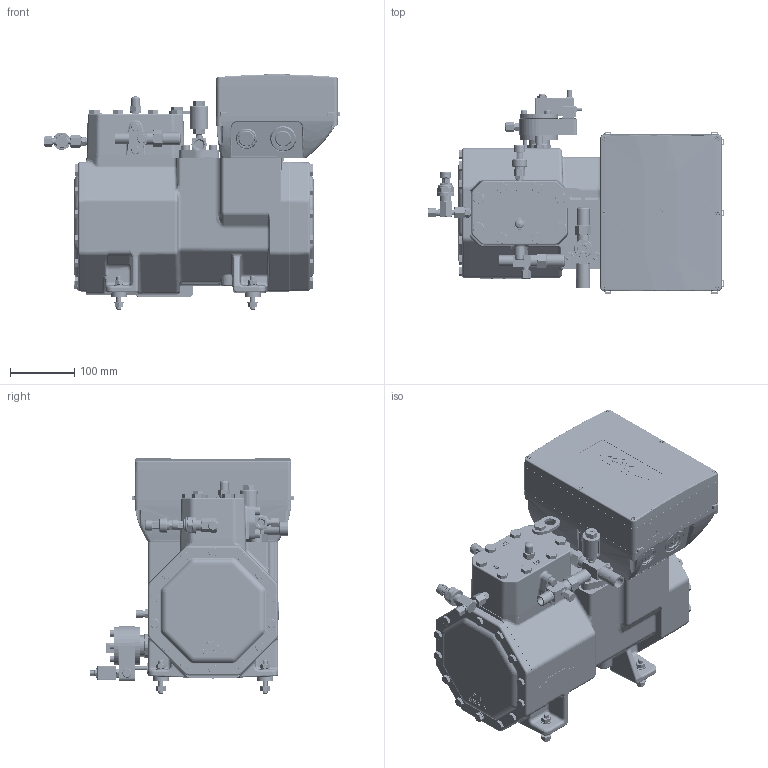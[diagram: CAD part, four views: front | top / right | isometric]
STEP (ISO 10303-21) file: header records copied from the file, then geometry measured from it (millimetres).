
FILE_DESCRIPTION(/* description */ (''),/* implementation_level */ '2;1');
FILE_NAME(/* name */ '2NSL-2MSL-2KSL-2JSL-2HSL-CPL_Arrangement 1.stp',/* time_stamp */ '2025-09-19T15:35:06+02:00',/* author */ (''),/* organization */ (''),/* preprocessor_version */ 'ST-DEVELOPER v20',/* originating_system */ 'SIEMENS PLM Software NX2406.8100',/* authorisation */ '');
FILE_SCHEMA (('AUTOMOTIVE_DESIGN { 1 0 10303 214 3 1 1 1 }'));
Products named in the file (24): PRESSURE-TRANSMITTER-43-LP; PT1000; DISCHARGE-SENSOR-HP; HOUSING-COVER-C1; HOUSING-COVER-CH1; CYLINDER-HEAD-HIGH-D30-D46; CRANKCASE-HEATER-200-260V-120W; TERMINAL-BOX-CE3-CM-RC-02; BLIND-FLANGE-HD35-CM; BLIND-FLANGE-HD42; OIL-LEVEL-MONITORING-OLM-IQ-2; CYLINDER-HEAD-HIGH-D30-D46-01; SHUT-OFF-VALVE-DI16-DA22-DN12; SHUT-OFF-VALVE-DI12-DA17-DN10; DAMPER-ELEMENT-COMPL-C1-03; TERMINAL-BOX-STANDARD-IP65; PROTECT-CAP-PRESS-REL-VALVE; BODY-2MSL-2FSL; APPLICATION-ENVENLOPE-MONITORI; 2NSL-2HSL-OPTION; 2NSL-2MSL-2KSL-2JSL-2HSL; 2GSL-2FSL; 2NSL-2HSL-STANDRAD; 2NSL-2MSL-2KSL-2JSL-2HSL-CPL
Assembly tree (26 placements, depth 4):
  2NSL-2MSL-2KSL-2JSL-2HSL-CPL
    2NSL-2HSL-STANDRAD
      BODY-2MSL-2FSL
      PROTECT-CAP-PRESS-REL-VALVE
      TERMINAL-BOX-STANDARD-IP65
      DAMPER-ELEMENT-COMPL-C1-03  x4
      SHUT-OFF-VALVE-DI12-DA17-DN10
      SHUT-OFF-VALVE-DI16-DA22-DN12
      CYLINDER-HEAD-HIGH-D30-D46-01
      2GSL-2FSL
        HOUSING-COVER-CH1
      2NSL-2MSL-2KSL-2JSL-2HSL
        HOUSING-COVER-C1
    2NSL-2HSL-OPTION
      OIL-LEVEL-MONITORING-OLM-IQ-2
      BLIND-FLANGE-HD42
      BLIND-FLANGE-HD35-CM
      TERMINAL-BOX-CE3-CM-RC-02
      CRANKCASE-HEATER-200-260V-120W
      CYLINDER-HEAD-HIGH-D30-D46
      APPLICATION-ENVENLOPE-MONITORI
        DISCHARGE-SENSOR-HP
        PT1000
        PRESSURE-TRANSMITTER-43-LP
Bounding box: 461.33 x 317.25 x 365.92 mm (x, y, z)
Volume: 22074898.7 mm3; surface area: 1059430.1 mm2
Topology: 21 solids, 29 shells, 6341 faces, 15465 edges, 9619 vertices
Faces by surface type: plane 2723, cylinder 1283, bspline 843, cone 817, torus 286, extrusion 269, sphere 120
Full cylindrical faces by diameter (mm): 0.75 x3, 3 x4, 4 x12, 5 x7, 6 x4, 6.5 x2, 6.8 x14, 7 x1, 7.188 x4, 7.794 x16, 8 x5, 8.08 x1, 8.2 x1, 8.4 x8, 9 x12, 9.391 x2, 9.5 x1, 9.8 x1, 10 x3, 10.287 x2, 10.29 x5, 10.72 x1, 10.907 x1, 11 x28, 11.6 x14, 11.63 x28, 12 x3, 12.8 x1, 13 x9, 14 x2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
Entity records: 216925 total; most frequent: CARTESIAN_POINT 77005, ORIENTED_EDGE 28570, DIRECTION 24836, EDGE_CURVE 14285, AXIS2_PLACEMENT_3D 9254, VERTEX_POINT 9210, EDGE_LOOP 7207, VECTOR 6328
